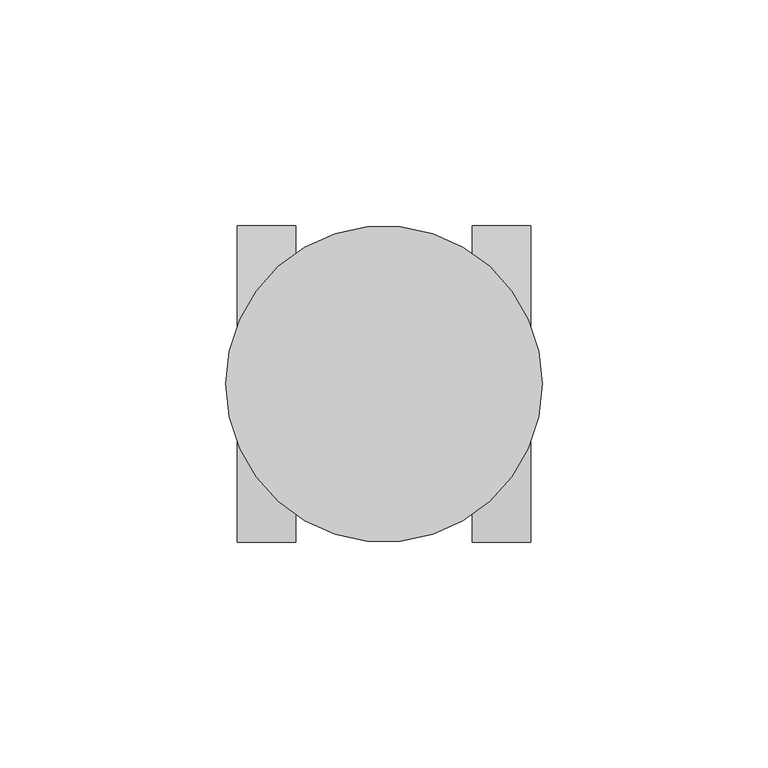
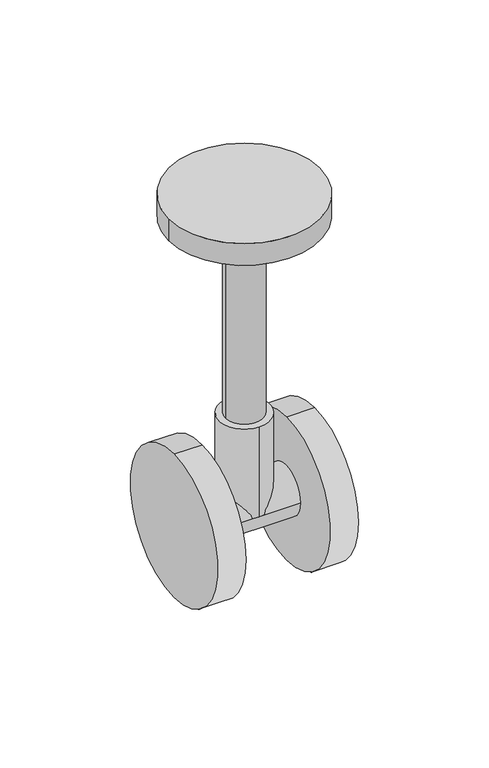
"""IFC4 building model written with IfcOpenShell, lengths in millimetres: valve geometry, C0100_GV_仕切弁 : GV_仕切弁."""

from ifc_helpers import new_model, si_unit, point, frame, origin, origin_with_axes, origin_2d, place, context, project, spatial, circle_curve, trimmed, segment, composite_curve, outline, extrude, source, transform, mapped, element, save


def valve_cbaba786(model_context):
    return source(origin(), model_context, "Body", "SweptSolid", [
        extrude(outline(composite_curve([segment(trimmed(circle_curve(origin_2d(), 35.0), [point((0.0, -35.0))], [point((0.0, 35.0))], False, "CARTESIAN"), True, "CONTINUOUS"), segment(trimmed(circle_curve(origin_2d(), 35.0), [point((0.0, 35.0))], [point((0.0, -35.0))], False, "CARTESIAN"), True, "CONTINUOUS")], self_intersect=False)), frame((-32.5, 0.0, 0.0), z_axis=(1.0, 0.0, 0.0), x_axis=(0.0, 1.0, 0.0)), (0.0, 0.0, 1.0), 13.0),
        extrude(outline(composite_curve([segment(trimmed(circle_curve(origin_2d(), 35.0), [point((0.0, -35.0))], [point((0.0, 35.0))], False, "CARTESIAN"), True, "CONTINUOUS"), segment(trimmed(circle_curve(origin_2d(), 35.0), [point((0.0, 35.0))], [point((0.0, -35.0))], False, "CARTESIAN"), True, "CONTINUOUS")], self_intersect=False)), frame((19.5, 0.0, 0.0), z_axis=(1.0, 0.0, 0.0), x_axis=(0.0, 1.0, 0.0)), (0.0, 0.0, 1.0), 13.0),
        extrude(outline(composite_curve([segment(trimmed(circle_curve(origin_2d(), 11.6666667), [point((0.0, 11.6666667))], [point((0.0, -11.6666667))], False, "CARTESIAN"), True, "CONTINUOUS"), segment(trimmed(circle_curve(origin_2d(), 11.6666667), [point((0.0, -11.6666667))], [point((0.0, 11.6666667))], False, "CARTESIAN"), True, "CONTINUOUS")], self_intersect=False)), origin_with_axes(), (0.0, 0.0, 1.0), 44.0),
        extrude(outline(composite_curve([segment(trimmed(circle_curve(origin_2d(), 8.75), [point((8.75, 0.0))], [point((-8.75, 0.0))], False, "CARTESIAN"), True, "CONTINUOUS"), segment(trimmed(circle_curve(origin_2d(), 8.75), [point((-8.75, 0.0))], [point((8.75, 0.0))], False, "CARTESIAN"), True, "CONTINUOUS")], self_intersect=False)), frame((0.0, 0.0, 44.0), z_axis=(0.0, 0.0, 1.0), x_axis=(1.0, 0.0, 0.0)), (0.0, 0.0, 1.0), 96.3),
        extrude(outline(composite_curve([segment(trimmed(circle_curve(origin_2d(), 35.0), [point((35.0, 0.0))], [point((-35.0, 0.0))], False, "CARTESIAN"), True, "CONTINUOUS"), segment(trimmed(circle_curve(origin_2d(), 35.0), [point((-35.0, 0.0))], [point((35.0, 0.0))], False, "CARTESIAN"), True, "CONTINUOUS")], self_intersect=False)), frame((0.0, 0.0, 140.3), z_axis=(0.0, 0.0, 1.0), x_axis=(1.0, 0.0, 0.0)), (0.0, 0.0, 1.0), 10.7),
        extrude(outline(composite_curve([segment(trimmed(circle_curve(origin_2d(), 11.6666667), [point((-11.6666667, 0.0))], [point((11.6666667, 0.0))], False, "CARTESIAN"), True, "CONTINUOUS"), segment(trimmed(circle_curve(origin_2d(), 11.6666667), [point((11.6666667, 0.0))], [point((-11.6666667, 0.0))], False, "CARTESIAN"), True, "CONTINUOUS")], self_intersect=False)), frame((-19.5, 0.0, 0.0), z_axis=(1.0, 0.0, 0.0), x_axis=(0.0, 1.0, 0.0)), (0.0, 0.0, 1.0), 39.0),
    ])


if __name__ == "__main__":
    model = new_model("IFC4")
    model_context = context("Model", 3, world=origin())
    ifc_project = project(units=[si_unit("LENGTHUNIT", "METRE", prefix="MILLI")], contexts=[model_context])
    site = spatial("IfcSite", under=ifc_project)
    building = spatial("IfcBuilding", under=site)
    placement = place(None, origin())
    valve_shape = valve_cbaba786(model_context)
    element("IfcValve", 1, ObjectType="C0100_GV_仕切弁 : GV_仕切弁", at=placement, inside=building, context=model_context, shape_type="MappedRepresentation", body=[
        mapped(valve_shape, transform((0.0, 0.0, 0.0), x_axis=(1.0, 0.0, 0.0), y_axis=(0.0, 1.0, 0.0), z_axis=(0.0, 0.0, 1.0))),
    ])
    save(model, "model.ifc")
